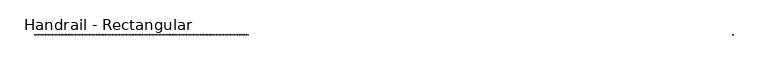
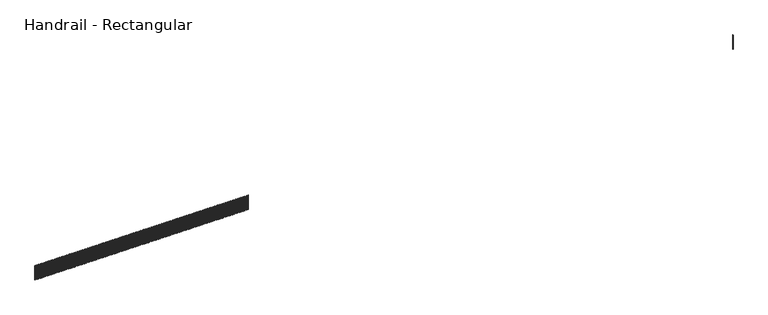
"""IFC4 building model written with IfcOpenShell, lengths in millimetres: railing geometry, Handrail - Rectangular."""

from ifc_helpers import new_model, si_unit, frame, origin, place, context, project, spatial, polyline, outline, extrude, source, transform, mapped, element, save


def handrail_rectangular_199c1d4d(model_context):
    return source(origin(), model_context, "Body", "SweptSolid", [
        extrude(outline(polyline([(1520.7691649, 4066.7725872), (1520.7691649, 4085.8225872), (1539.8191649, 4085.8225872), (1539.8191649, 4066.7725872), (1520.7691649, 4066.7725872)])), frame((0.0, 0.0, 3657.6), z_axis=(0.0, 0.0, 1.0), x_axis=(1.0, 0.0, 0.0)), (0.0, 0.0, 1.0), 863.6),
        extrude(outline(polyline([(1419.1691649, 4066.7725872), (1419.1691649, 4085.8225872), (1438.2191649, 4085.8225872), (1438.2191649, 4066.7725872), (1419.1691649, 4066.7725872)])), frame((0.0, 0.0, 3657.6), z_axis=(0.0, 0.0, 1.0), x_axis=(1.0, 0.0, 0.0)), (0.0, 0.0, 1.0), 863.6),
        extrude(outline(polyline([(1317.5691649, 4066.7725872), (1317.5691649, 4085.8225872), (1336.6191649, 4085.8225872), (1336.6191649, 4066.7725872), (1317.5691649, 4066.7725872)])), frame((0.0, 0.0, 3657.6), z_axis=(0.0, 0.0, 1.0), x_axis=(1.0, 0.0, 0.0)), (0.0, 0.0, 1.0), 863.6),
        extrude(outline(polyline([(1215.9691649, 4066.7725872), (1215.9691649, 4085.8225872), (1235.0191649, 4085.8225872), (1235.0191649, 4066.7725872), (1215.9691649, 4066.7725872)])), frame((0.0, 0.0, 3657.6), z_axis=(0.0, 0.0, 1.0), x_axis=(1.0, 0.0, 0.0)), (0.0, 0.0, 1.0), 863.6),
        extrude(outline(polyline([(1114.3691649, 4066.7725872), (1114.3691649, 4085.8225872), (1133.4191649, 4085.8225872), (1133.4191649, 4066.7725872), (1114.3691649, 4066.7725872)])), frame((0.0, 0.0, 3657.6), z_axis=(0.0, 0.0, 1.0), x_axis=(1.0, 0.0, 0.0)), (0.0, 0.0, 1.0), 863.6),
        extrude(outline(polyline([(1012.7691649, 4066.7725872), (1012.7691649, 4085.8225872), (1031.8191649, 4085.8225872), (1031.8191649, 4066.7725872), (1012.7691649, 4066.7725872)])), frame((0.0, 0.0, 3657.6), z_axis=(0.0, 0.0, 1.0), x_axis=(1.0, 0.0, 0.0)), (0.0, 0.0, 1.0), 863.6),
        extrude(outline(polyline([(911.1691649, 4066.7725872), (911.1691649, 4085.8225872), (930.2191649, 4085.8225872), (930.2191649, 4066.7725872), (911.1691649, 4066.7725872)])), frame((0.0, 0.0, 3657.6), z_axis=(0.0, 0.0, 1.0), x_axis=(1.0, 0.0, 0.0)), (0.0, 0.0, 1.0), 863.6),
        extrude(outline(polyline([(809.5691649, 4066.7725872), (809.5691649, 4085.8225872), (828.6191649, 4085.8225872), (828.6191649, 4066.7725872), (809.5691649, 4066.7725872)])), frame((0.0, 0.0, 3657.6), z_axis=(0.0, 0.0, 1.0), x_axis=(1.0, 0.0, 0.0)), (0.0, 0.0, 1.0), 863.6),
        extrude(outline(polyline([(707.9691649, 4066.7725872), (707.9691649, 4085.8225872), (727.0191649, 4085.8225872), (727.0191649, 4066.7725872), (707.9691649, 4066.7725872)])), frame((0.0, 0.0, 3657.6), z_axis=(0.0, 0.0, 1.0), x_axis=(1.0, 0.0, 0.0)), (0.0, 0.0, 1.0), 863.6),
        extrude(outline(polyline([(606.3691649, 4066.7725872), (606.3691649, 4085.8225872), (625.4191649, 4085.8225872), (625.4191649, 4066.7725872), (606.3691649, 4066.7725872)])), frame((0.0, 0.0, 3657.6), z_axis=(0.0, 0.0, 1.0), x_axis=(1.0, 0.0, 0.0)), (0.0, 0.0, 1.0), 863.6),
        extrude(outline(polyline([(504.7691649, 4066.7725872), (504.7691649, 4085.8225872), (523.8191649, 4085.8225872), (523.8191649, 4066.7725872), (504.7691649, 4066.7725872)])), frame((0.0, 0.0, 3657.6), z_axis=(0.0, 0.0, 1.0), x_axis=(1.0, 0.0, 0.0)), (0.0, 0.0, 1.0), 863.6),
        extrude(outline(polyline([(403.1691649, 4066.7725872), (403.1691649, 4085.8225872), (422.2191649, 4085.8225872), (422.2191649, 4066.7725872), (403.1691649, 4066.7725872)])), frame((0.0, 0.0, 3657.6), z_axis=(0.0, 0.0, 1.0), x_axis=(1.0, 0.0, 0.0)), (0.0, 0.0, 1.0), 863.6),
        extrude(outline(polyline([(301.5691649, 4066.7725872), (301.5691649, 4085.8225872), (320.6191649, 4085.8225872), (320.6191649, 4066.7725872), (301.5691649, 4066.7725872)])), frame((0.0, 0.0, 3657.6), z_axis=(0.0, 0.0, 1.0), x_axis=(1.0, 0.0, 0.0)), (0.0, 0.0, 1.0), 863.6),
        extrude(outline(polyline([(199.9691649, 4066.7725872), (199.9691649, 4085.8225872), (219.0191649, 4085.8225872), (219.0191649, 4066.7725872), (199.9691649, 4066.7725872)])), frame((0.0, 0.0, 3657.6), z_axis=(0.0, 0.0, 1.0), x_axis=(1.0, 0.0, 0.0)), (0.0, 0.0, 1.0), 863.6),
        extrude(outline(polyline([(98.3691649, 4066.7725872), (98.3691649, 4085.8225872), (117.4191649, 4085.8225872), (117.4191649, 4066.7725872), (98.3691649, 4066.7725872)])), frame((0.0, 0.0, 3657.6), z_axis=(0.0, 0.0, 1.0), x_axis=(1.0, 0.0, 0.0)), (0.0, 0.0, 1.0), 863.6),
        extrude(outline(polyline([(-3.2308351, 4066.7725872), (-3.2308351, 4085.8225872), (15.8191649, 4085.8225872), (15.8191649, 4066.7725872), (-3.2308351, 4066.7725872)])), frame((0.0, 0.0, 3657.6), z_axis=(0.0, 0.0, 1.0), x_axis=(1.0, 0.0, 0.0)), (0.0, 0.0, 1.0), 863.6),
        extrude(outline(polyline([(-104.8308351, 4066.7725872), (-104.8308351, 4085.8225872), (-85.7808351, 4085.8225872), (-85.7808351, 4066.7725872), (-104.8308351, 4066.7725872)])), frame((0.0, 0.0, 3657.6), z_axis=(0.0, 0.0, 1.0), x_axis=(1.0, 0.0, 0.0)), (0.0, 0.0, 1.0), 863.6),
        extrude(outline(polyline([(-206.4308351, 4066.7725872), (-206.4308351, 4085.8225872), (-187.3808351, 4085.8225872), (-187.3808351, 4066.7725872), (-206.4308351, 4066.7725872)])), frame((0.0, 0.0, 3657.6), z_axis=(0.0, 0.0, 1.0), x_axis=(1.0, 0.0, 0.0)), (0.0, 0.0, 1.0), 863.6),
        extrude(outline(polyline([(-308.0308351, 4066.7725872), (-308.0308351, 4085.8225872), (-288.9808351, 4085.8225872), (-288.9808351, 4066.7725872), (-308.0308351, 4066.7725872)])), frame((0.0, 0.0, 3657.6), z_axis=(0.0, 0.0, 1.0), x_axis=(1.0, 0.0, 0.0)), (0.0, 0.0, 1.0), 863.6),
        extrude(outline(polyline([(-409.6308351, 4066.7725872), (-409.6308351, 4085.8225872), (-390.5808351, 4085.8225872), (-390.5808351, 4066.7725872), (-409.6308351, 4066.7725872)])), frame((0.0, 0.0, 3657.6), z_axis=(0.0, 0.0, 1.0), x_axis=(1.0, 0.0, 0.0)), (0.0, 0.0, 1.0), 863.6),
        extrude(outline(polyline([(-511.2308351, 4066.7725872), (-511.2308351, 4085.8225872), (-492.1808351, 4085.8225872), (-492.1808351, 4066.7725872), (-511.2308351, 4066.7725872)])), frame((0.0, 0.0, 3657.6), z_axis=(0.0, 0.0, 1.0), x_axis=(1.0, 0.0, 0.0)), (0.0, 0.0, 1.0), 863.6),
        extrude(outline(polyline([(-612.8308351, 4066.7725872), (-612.8308351, 4085.8225872), (-593.7808351, 4085.8225872), (-593.7808351, 4066.7725872), (-612.8308351, 4066.7725872)])), frame((0.0, 0.0, 3657.6), z_axis=(0.0, 0.0, 1.0), x_axis=(1.0, 0.0, 0.0)), (0.0, 0.0, 1.0), 863.6),
        extrude(outline(polyline([(-714.4308351, 4066.7725872), (-714.4308351, 4085.8225872), (-695.3808351, 4085.8225872), (-695.3808351, 4066.7725872), (-714.4308351, 4066.7725872)])), frame((0.0, 0.0, 3657.6), z_axis=(0.0, 0.0, 1.0), x_axis=(1.0, 0.0, 0.0)), (0.0, 0.0, 1.0), 863.6),
        extrude(outline(polyline([(-816.0308351, 4066.7725872), (-816.0308351, 4085.8225872), (-796.9808351, 4085.8225872), (-796.9808351, 4066.7725872), (-816.0308351, 4066.7725872)])), frame((0.0, 0.0, 3657.6), z_axis=(0.0, 0.0, 1.0), x_axis=(1.0, 0.0, 0.0)), (0.0, 0.0, 1.0), 863.6),
        extrude(outline(polyline([(-917.6308351, 4066.7725872), (-917.6308351, 4085.8225872), (-898.5808351, 4085.8225872), (-898.5808351, 4066.7725872), (-917.6308351, 4066.7725872)])), frame((0.0, 0.0, 3657.6), z_axis=(0.0, 0.0, 1.0), x_axis=(1.0, 0.0, 0.0)), (0.0, 0.0, 1.0), 863.6),
        extrude(outline(polyline([(-1019.2308351, 4066.7725872), (-1019.2308351, 4085.8225872), (-1000.1808351, 4085.8225872), (-1000.1808351, 4066.7725872), (-1019.2308351, 4066.7725872)])), frame((0.0, 0.0, 3657.6), z_axis=(0.0, 0.0, 1.0), x_axis=(1.0, 0.0, 0.0)), (0.0, 0.0, 1.0), 863.6),
        extrude(outline(polyline([(-1120.8308351, 4066.7725872), (-1120.8308351, 4085.8225872), (-1101.7808351, 4085.8225872), (-1101.7808351, 4066.7725872), (-1120.8308351, 4066.7725872)])), frame((0.0, 0.0, 3657.6), z_axis=(0.0, 0.0, 1.0), x_axis=(1.0, 0.0, 0.0)), (0.0, 0.0, 1.0), 863.6),
        extrude(outline(polyline([(-1222.4308351, 4066.7725872), (-1222.4308351, 4085.8225872), (-1203.3808351, 4085.8225872), (-1203.3808351, 4066.7725872), (-1222.4308351, 4066.7725872)])), frame((0.0, 0.0, 3657.6), z_axis=(0.0, 0.0, 1.0), x_axis=(1.0, 0.0, 0.0)), (0.0, 0.0, 1.0), 863.6),
        extrude(outline(polyline([(-1324.0308351, 4066.7725872), (-1324.0308351, 4085.8225872), (-1304.9808351, 4085.8225872), (-1304.9808351, 4066.7725872), (-1324.0308351, 4066.7725872)])), frame((0.0, 0.0, 3657.6), z_axis=(0.0, 0.0, 1.0), x_axis=(1.0, 0.0, 0.0)), (0.0, 0.0, 1.0), 863.6),
        extrude(outline(polyline([(-1425.6308351, 4066.7725872), (-1425.6308351, 4085.8225872), (-1406.5808351, 4085.8225872), (-1406.5808351, 4066.7725872), (-1425.6308351, 4066.7725872)])), frame((0.0, 0.0, 3657.6), z_axis=(0.0, 0.0, 1.0), x_axis=(1.0, 0.0, 0.0)), (0.0, 0.0, 1.0), 863.6),
        extrude(outline(polyline([(-1527.2308351, 4066.7725872), (-1527.2308351, 4085.8225872), (-1508.1808351, 4085.8225872), (-1508.1808351, 4066.7725872), (-1527.2308351, 4066.7725872)])), frame((0.0, 0.0, 3657.6), z_axis=(0.0, 0.0, 1.0), x_axis=(1.0, 0.0, 0.0)), (0.0, 0.0, 1.0), 863.6),
        extrude(outline(polyline([(-1628.8308351, 4066.7725872), (-1628.8308351, 4085.8225872), (-1609.7808351, 4085.8225872), (-1609.7808351, 4066.7725872), (-1628.8308351, 4066.7725872)])), frame((0.0, 0.0, 3657.6), z_axis=(0.0, 0.0, 1.0), x_axis=(1.0, 0.0, 0.0)), (0.0, 0.0, 1.0), 863.6),
        extrude(outline(polyline([(-1730.4308351, 4066.7725872), (-1730.4308351, 4085.8225872), (-1711.3808351, 4085.8225872), (-1711.3808351, 4066.7725872), (-1730.4308351, 4066.7725872)])), frame((0.0, 0.0, 3657.6), z_axis=(0.0, 0.0, 1.0), x_axis=(1.0, 0.0, 0.0)), (0.0, 0.0, 1.0), 863.6),
        extrude(outline(polyline([(-1832.0308351, 4066.7725872), (-1832.0308351, 4085.8225872), (-1812.9808351, 4085.8225872), (-1812.9808351, 4066.7725872), (-1832.0308351, 4066.7725872)])), frame((0.0, 0.0, 3657.6), z_axis=(0.0, 0.0, 1.0), x_axis=(1.0, 0.0, 0.0)), (0.0, 0.0, 1.0), 863.6),
        extrude(outline(polyline([(-1933.6308351, 4066.7725872), (-1933.6308351, 4085.8225872), (-1914.5808351, 4085.8225872), (-1914.5808351, 4066.7725872), (-1933.6308351, 4066.7725872)])), frame((0.0, 0.0, 3657.6), z_axis=(0.0, 0.0, 1.0), x_axis=(1.0, 0.0, 0.0)), (0.0, 0.0, 1.0), 863.6),
        extrude(outline(polyline([(-2035.2308351, 4066.7725872), (-2035.2308351, 4085.8225872), (-2016.1808351, 4085.8225872), (-2016.1808351, 4066.7725872), (-2035.2308351, 4066.7725872)])), frame((0.0, 0.0, 3657.6), z_axis=(0.0, 0.0, 1.0), x_axis=(1.0, 0.0, 0.0)), (0.0, 0.0, 1.0), 863.6),
        extrude(outline(polyline([(-2136.8308351, 4066.7725872), (-2136.8308351, 4085.8225872), (-2117.7808351, 4085.8225872), (-2117.7808351, 4066.7725872), (-2136.8308351, 4066.7725872)])), frame((0.0, 0.0, 3657.6), z_axis=(0.0, 0.0, 1.0), x_axis=(1.0, 0.0, 0.0)), (0.0, 0.0, 1.0), 863.6),
        extrude(outline(polyline([(-2238.4308351, 4066.7725872), (-2238.4308351, 4085.8225872), (-2219.3808351, 4085.8225872), (-2219.3808351, 4066.7725872), (-2238.4308351, 4066.7725872)])), frame((0.0, 0.0, 3657.6), z_axis=(0.0, 0.0, 1.0), x_axis=(1.0, 0.0, 0.0)), (0.0, 0.0, 1.0), 863.6),
        extrude(outline(polyline([(-2340.0308351, 4066.7725872), (-2340.0308351, 4085.8225872), (-2320.9808351, 4085.8225872), (-2320.9808351, 4066.7725872), (-2340.0308351, 4066.7725872)])), frame((0.0, 0.0, 3657.6), z_axis=(0.0, 0.0, 1.0), x_axis=(1.0, 0.0, 0.0)), (0.0, 0.0, 1.0), 863.6),
        extrude(outline(polyline([(-2441.6308351, 4066.7725872), (-2441.6308351, 4085.8225872), (-2422.5808351, 4085.8225872), (-2422.5808351, 4066.7725872), (-2441.6308351, 4066.7725872)])), frame((0.0, 0.0, 3657.6), z_axis=(0.0, 0.0, 1.0), x_axis=(1.0, 0.0, 0.0)), (0.0, 0.0, 1.0), 863.6),
        extrude(outline(polyline([(-2543.2308351, 4066.7725872), (-2543.2308351, 4085.8225872), (-2524.1808351, 4085.8225872), (-2524.1808351, 4066.7725872), (-2543.2308351, 4066.7725872)])), frame((0.0, 0.0, 3657.6), z_axis=(0.0, 0.0, 1.0), x_axis=(1.0, 0.0, 0.0)), (0.0, 0.0, 1.0), 863.6),
        extrude(outline(polyline([(-2644.8308351, 4066.7725872), (-2644.8308351, 4085.8225872), (-2625.7808351, 4085.8225872), (-2625.7808351, 4066.7725872), (-2644.8308351, 4066.7725872)])), frame((0.0, 0.0, 3657.6), z_axis=(0.0, 0.0, 1.0), x_axis=(1.0, 0.0, 0.0)), (0.0, 0.0, 1.0), 863.6),
        extrude(outline(polyline([(-2746.4308351, 4066.7725872), (-2746.4308351, 4085.8225872), (-2727.3808351, 4085.8225872), (-2727.3808351, 4066.7725872), (-2746.4308351, 4066.7725872)])), frame((0.0, 0.0, 3657.6), z_axis=(0.0, 0.0, 1.0), x_axis=(1.0, 0.0, 0.0)), (0.0, 0.0, 1.0), 863.6),
        extrude(outline(polyline([(-2848.0308351, 4066.7725872), (-2848.0308351, 4085.8225872), (-2828.9808351, 4085.8225872), (-2828.9808351, 4066.7725872), (-2848.0308351, 4066.7725872)])), frame((0.0, 0.0, 3657.6), z_axis=(0.0, 0.0, 1.0), x_axis=(1.0, 0.0, 0.0)), (0.0, 0.0, 1.0), 863.6),
        extrude(outline(polyline([(-2949.6308351, 4066.7725872), (-2949.6308351, 4085.8225872), (-2930.5808351, 4085.8225872), (-2930.5808351, 4066.7725872), (-2949.6308351, 4066.7725872)])), frame((0.0, 0.0, 3657.6), z_axis=(0.0, 0.0, 1.0), x_axis=(1.0, 0.0, 0.0)), (0.0, 0.0, 1.0), 863.6),
        extrude(outline(polyline([(-3051.2308351, 4066.7725872), (-3051.2308351, 4085.8225872), (-3032.1808351, 4085.8225872), (-3032.1808351, 4066.7725872), (-3051.2308351, 4066.7725872)])), frame((0.0, 0.0, 3657.6), z_axis=(0.0, 0.0, 1.0), x_axis=(1.0, 0.0, 0.0)), (0.0, 0.0, 1.0), 863.6),
        extrude(outline(polyline([(-3152.8308351, 4066.7725872), (-3152.8308351, 4085.8225872), (-3133.7808351, 4085.8225872), (-3133.7808351, 4066.7725872), (-3152.8308351, 4066.7725872)])), frame((0.0, 0.0, 3657.6), z_axis=(0.0, 0.0, 1.0), x_axis=(1.0, 0.0, 0.0)), (0.0, 0.0, 1.0), 863.6),
        extrude(outline(polyline([(-3254.4308351, 4066.7725872), (-3254.4308351, 4085.8225872), (-3235.3808351, 4085.8225872), (-3235.3808351, 4066.7725872), (-3254.4308351, 4066.7725872)])), frame((0.0, 0.0, 3657.6), z_axis=(0.0, 0.0, 1.0), x_axis=(1.0, 0.0, 0.0)), (0.0, 0.0, 1.0), 863.6),
        extrude(outline(polyline([(-3356.0308351, 4066.7725872), (-3356.0308351, 4085.8225872), (-3336.9808351, 4085.8225872), (-3336.9808351, 4066.7725872), (-3356.0308351, 4066.7725872)])), frame((0.0, 0.0, 3657.6), z_axis=(0.0, 0.0, 1.0), x_axis=(1.0, 0.0, 0.0)), (0.0, 0.0, 1.0), 863.6),
        extrude(outline(polyline([(-3457.6308351, 4066.7725872), (-3457.6308351, 4085.8225872), (-3438.5808351, 4085.8225872), (-3438.5808351, 4066.7725872), (-3457.6308351, 4066.7725872)])), frame((0.0, 0.0, 3657.6), z_axis=(0.0, 0.0, 1.0), x_axis=(1.0, 0.0, 0.0)), (0.0, 0.0, 1.0), 863.6),
        extrude(outline(polyline([(-3559.2308351, 4066.7725872), (-3559.2308351, 4085.8225872), (-3540.1808351, 4085.8225872), (-3540.1808351, 4066.7725872), (-3559.2308351, 4066.7725872)])), frame((0.0, 0.0, 3657.6), z_axis=(0.0, 0.0, 1.0), x_axis=(1.0, 0.0, 0.0)), (0.0, 0.0, 1.0), 863.6),
        extrude(outline(polyline([(-3660.8308351, 4066.7725872), (-3660.8308351, 4085.8225872), (-3641.7808351, 4085.8225872), (-3641.7808351, 4066.7725872), (-3660.8308351, 4066.7725872)])), frame((0.0, 0.0, 3657.6), z_axis=(0.0, 0.0, 1.0), x_axis=(1.0, 0.0, 0.0)), (0.0, 0.0, 1.0), 863.6),
        extrude(outline(polyline([(-3762.4308351, 4066.7725872), (-3762.4308351, 4085.8225872), (-3743.3808351, 4085.8225872), (-3743.3808351, 4066.7725872), (-3762.4308351, 4066.7725872)])), frame((0.0, 0.0, 3657.6), z_axis=(0.0, 0.0, 1.0), x_axis=(1.0, 0.0, 0.0)), (0.0, 0.0, 1.0), 863.6),
        extrude(outline(polyline([(-3864.0308351, 4066.7725872), (-3864.0308351, 4085.8225872), (-3844.9808351, 4085.8225872), (-3844.9808351, 4066.7725872), (-3864.0308351, 4066.7725872)])), frame((0.0, 0.0, 3657.6), z_axis=(0.0, 0.0, 1.0), x_axis=(1.0, 0.0, 0.0)), (0.0, 0.0, 1.0), 863.6),
        extrude(outline(polyline([(-3965.6308351, 4066.7725872), (-3965.6308351, 4085.8225872), (-3946.5808351, 4085.8225872), (-3946.5808351, 4066.7725872), (-3965.6308351, 4066.7725872)])), frame((0.0, 0.0, 3657.6), z_axis=(0.0, 0.0, 1.0), x_axis=(1.0, 0.0, 0.0)), (0.0, 0.0, 1.0), 863.6),
        extrude(outline(polyline([(-4067.2308351, 4066.7725872), (-4067.2308351, 4085.8225872), (-4048.1808351, 4085.8225872), (-4048.1808351, 4066.7725872), (-4067.2308351, 4066.7725872)])), frame((0.0, 0.0, 3657.6), z_axis=(0.0, 0.0, 1.0), x_axis=(1.0, 0.0, 0.0)), (0.0, 0.0, 1.0), 863.6),
        extrude(outline(polyline([(-4168.8308351, 4066.7725872), (-4168.8308351, 4085.8225872), (-4149.7808351, 4085.8225872), (-4149.7808351, 4066.7725872), (-4168.8308351, 4066.7725872)])), frame((0.0, 0.0, 3657.6), z_axis=(0.0, 0.0, 1.0), x_axis=(1.0, 0.0, 0.0)), (0.0, 0.0, 1.0), 863.6),
        extrude(outline(polyline([(-4270.4308351, 4066.7725872), (-4270.4308351, 4085.8225872), (-4251.3808351, 4085.8225872), (-4251.3808351, 4066.7725872), (-4270.4308351, 4066.7725872)])), frame((0.0, 0.0, 3657.6), z_axis=(0.0, 0.0, 1.0), x_axis=(1.0, 0.0, 0.0)), (0.0, 0.0, 1.0), 863.6),
        extrude(outline(polyline([(-4372.0308351, 4066.7725872), (-4372.0308351, 4085.8225872), (-4352.9808351, 4085.8225872), (-4352.9808351, 4066.7725872), (-4372.0308351, 4066.7725872)])), frame((0.0, 0.0, 3657.6), z_axis=(0.0, 0.0, 1.0), x_axis=(1.0, 0.0, 0.0)), (0.0, 0.0, 1.0), 863.6),
        extrude(outline(polyline([(-4473.6308351, 4066.7725872), (-4473.6308351, 4085.8225872), (-4454.5808351, 4085.8225872), (-4454.5808351, 4066.7725872), (-4473.6308351, 4066.7725872)])), frame((0.0, 0.0, 3657.6), z_axis=(0.0, 0.0, 1.0), x_axis=(1.0, 0.0, 0.0)), (0.0, 0.0, 1.0), 863.6),
        extrude(outline(polyline([(-4575.2308351, 4066.7725872), (-4575.2308351, 4085.8225872), (-4556.1808351, 4085.8225872), (-4556.1808351, 4066.7725872), (-4575.2308351, 4066.7725872)])), frame((0.0, 0.0, 3657.6), z_axis=(0.0, 0.0, 1.0), x_axis=(1.0, 0.0, 0.0)), (0.0, 0.0, 1.0), 863.6),
        extrude(outline(polyline([(-4676.8308351, 4066.7725872), (-4676.8308351, 4085.8225872), (-4657.7808351, 4085.8225872), (-4657.7808351, 4066.7725872), (-4676.8308351, 4066.7725872)])), frame((0.0, 0.0, 3657.6), z_axis=(0.0, 0.0, 1.0), x_axis=(1.0, 0.0, 0.0)), (0.0, 0.0, 1.0), 863.6),
        extrude(outline(polyline([(-4778.4308351, 4066.7725872), (-4778.4308351, 4085.8225872), (-4759.3808351, 4085.8225872), (-4759.3808351, 4066.7725872), (-4778.4308351, 4066.7725872)])), frame((0.0, 0.0, 3657.6), z_axis=(0.0, 0.0, 1.0), x_axis=(1.0, 0.0, 0.0)), (0.0, 0.0, 1.0), 863.6),
        extrude(outline(polyline([(-4880.0308351, 4066.7725872), (-4880.0308351, 4085.8225872), (-4860.9808351, 4085.8225872), (-4860.9808351, 4066.7725872), (-4880.0308351, 4066.7725872)])), frame((0.0, 0.0, 3657.6), z_axis=(0.0, 0.0, 1.0), x_axis=(1.0, 0.0, 0.0)), (0.0, 0.0, 1.0), 863.6),
        extrude(outline(polyline([(-4981.6308351, 4066.7725872), (-4981.6308351, 4085.8225872), (-4962.5808351, 4085.8225872), (-4962.5808351, 4066.7725872), (-4981.6308351, 4066.7725872)])), frame((0.0, 0.0, 3657.6), z_axis=(0.0, 0.0, 1.0), x_axis=(1.0, 0.0, 0.0)), (0.0, 0.0, 1.0), 863.6),
        extrude(outline(polyline([(-5083.2308351, 4066.7725872), (-5083.2308351, 4085.8225872), (-5064.1808351, 4085.8225872), (-5064.1808351, 4066.7725872), (-5083.2308351, 4066.7725872)])), frame((0.0, 0.0, 3657.6), z_axis=(0.0, 0.0, 1.0), x_axis=(1.0, 0.0, 0.0)), (0.0, 0.0, 1.0), 863.6),
        extrude(outline(polyline([(-5184.8308351, 4066.7725872), (-5184.8308351, 4085.8225872), (-5165.7808351, 4085.8225872), (-5165.7808351, 4066.7725872), (-5184.8308351, 4066.7725872)])), frame((0.0, 0.0, 3657.6), z_axis=(0.0, 0.0, 1.0), x_axis=(1.0, 0.0, 0.0)), (0.0, 0.0, 1.0), 863.6),
        extrude(outline(polyline([(-5286.4308351, 4066.7725872), (-5286.4308351, 4085.8225872), (-5267.3808351, 4085.8225872), (-5267.3808351, 4066.7725872), (-5286.4308351, 4066.7725872)])), frame((0.0, 0.0, 3657.6), z_axis=(0.0, 0.0, 1.0), x_axis=(1.0, 0.0, 0.0)), (0.0, 0.0, 1.0), 863.6),
        extrude(outline(polyline([(-5388.0308351, 4066.7725872), (-5388.0308351, 4085.8225872), (-5368.9808351, 4085.8225872), (-5368.9808351, 4066.7725872), (-5388.0308351, 4066.7725872)])), frame((0.0, 0.0, 3657.6), z_axis=(0.0, 0.0, 1.0), x_axis=(1.0, 0.0, 0.0)), (0.0, 0.0, 1.0), 863.6),
        extrude(outline(polyline([(-5489.6308351, 4066.7725872), (-5489.6308351, 4085.8225872), (-5470.5808351, 4085.8225872), (-5470.5808351, 4066.7725872), (-5489.6308351, 4066.7725872)])), frame((0.0, 0.0, 3657.6), z_axis=(0.0, 0.0, 1.0), x_axis=(1.0, 0.0, 0.0)), (0.0, 0.0, 1.0), 863.6),
        extrude(outline(polyline([(-5591.2308351, 4066.7725872), (-5591.2308351, 4085.8225872), (-5572.1808351, 4085.8225872), (-5572.1808351, 4066.7725872), (-5591.2308351, 4066.7725872)])), frame((0.0, 0.0, 3657.6), z_axis=(0.0, 0.0, 1.0), x_axis=(1.0, 0.0, 0.0)), (0.0, 0.0, 1.0), 863.6),
        extrude(outline(polyline([(-5692.8308351, 4066.7725872), (-5692.8308351, 4085.8225872), (-5673.7808351, 4085.8225872), (-5673.7808351, 4066.7725872), (-5692.8308351, 4066.7725872)])), frame((0.0, 0.0, 3657.6), z_axis=(0.0, 0.0, 1.0), x_axis=(1.0, 0.0, 0.0)), (0.0, 0.0, 1.0), 863.6),
        extrude(outline(polyline([(-5794.4308351, 4066.7725872), (-5794.4308351, 4085.8225872), (-5775.3808351, 4085.8225872), (-5775.3808351, 4066.7725872), (-5794.4308351, 4066.7725872)])), frame((0.0, 0.0, 3657.6), z_axis=(0.0, 0.0, 1.0), x_axis=(1.0, 0.0, 0.0)), (0.0, 0.0, 1.0), 863.6),
        extrude(outline(polyline([(-5896.0308351, 4066.7725872), (-5896.0308351, 4085.8225872), (-5876.9808351, 4085.8225872), (-5876.9808351, 4066.7725872), (-5896.0308351, 4066.7725872)])), frame((0.0, 0.0, 3657.6), z_axis=(0.0, 0.0, 1.0), x_axis=(1.0, 0.0, 0.0)), (0.0, 0.0, 1.0), 863.6),
        extrude(outline(polyline([(-5997.6308351, 4066.7725872), (-5997.6308351, 4085.8225872), (-5978.5808351, 4085.8225872), (-5978.5808351, 4066.7725872), (-5997.6308351, 4066.7725872)])), frame((0.0, 0.0, 3657.6), z_axis=(0.0, 0.0, 1.0), x_axis=(1.0, 0.0, 0.0)), (0.0, 0.0, 1.0), 863.6),
        extrude(outline(polyline([(-6099.2308351, 4066.7725872), (-6099.2308351, 4085.8225872), (-6080.1808351, 4085.8225872), (-6080.1808351, 4066.7725872), (-6099.2308351, 4066.7725872)])), frame((0.0, 0.0, 3657.6), z_axis=(0.0, 0.0, 1.0), x_axis=(1.0, 0.0, 0.0)), (0.0, 0.0, 1.0), 863.6),
        extrude(outline(polyline([(-6200.8308351, 4066.7725872), (-6200.8308351, 4085.8225872), (-6181.7808351, 4085.8225872), (-6181.7808351, 4066.7725872), (-6200.8308351, 4066.7725872)])), frame((0.0, 0.0, 3657.6), z_axis=(0.0, 0.0, 1.0), x_axis=(1.0, 0.0, 0.0)), (0.0, 0.0, 1.0), 863.6),
        extrude(outline(polyline([(-6302.4308351, 4066.7725872), (-6302.4308351, 4085.8225872), (-6283.3808351, 4085.8225872), (-6283.3808351, 4066.7725872), (-6302.4308351, 4066.7725872)])), frame((0.0, 0.0, 3657.6), z_axis=(0.0, 0.0, 1.0), x_axis=(1.0, 0.0, 0.0)), (0.0, 0.0, 1.0), 863.6),
        extrude(outline(polyline([(-6404.0308351, 4066.7725872), (-6404.0308351, 4085.8225872), (-6384.9808351, 4085.8225872), (-6384.9808351, 4066.7725872), (-6404.0308351, 4066.7725872)])), frame((0.0, 0.0, 3657.6), z_axis=(0.0, 0.0, 1.0), x_axis=(1.0, 0.0, 0.0)), (0.0, 0.0, 1.0), 863.6),
        extrude(outline(polyline([(-6505.6308351, 4066.7725872), (-6505.6308351, 4085.8225872), (-6486.5808351, 4085.8225872), (-6486.5808351, 4066.7725872), (-6505.6308351, 4066.7725872)])), frame((0.0, 0.0, 3657.6), z_axis=(0.0, 0.0, 1.0), x_axis=(1.0, 0.0, 0.0)), (0.0, 0.0, 1.0), 863.6),
        extrude(outline(polyline([(-6607.2308351, 4066.7725872), (-6607.2308351, 4085.8225872), (-6588.1808351, 4085.8225872), (-6588.1808351, 4066.7725872), (-6607.2308351, 4066.7725872)])), frame((0.0, 0.0, 3657.6), z_axis=(0.0, 0.0, 1.0), x_axis=(1.0, 0.0, 0.0)), (0.0, 0.0, 1.0), 863.6),
        extrude(outline(polyline([(-6708.8308351, 4066.7725872), (-6708.8308351, 4085.8225872), (-6689.7808351, 4085.8225872), (-6689.7808351, 4066.7725872), (-6708.8308351, 4066.7725872)])), frame((0.0, 0.0, 3657.6), z_axis=(0.0, 0.0, 1.0), x_axis=(1.0, 0.0, 0.0)), (0.0, 0.0, 1.0), 863.6),
        extrude(outline(polyline([(-6810.4308351, 4066.7725872), (-6810.4308351, 4085.8225872), (-6791.3808351, 4085.8225872), (-6791.3808351, 4066.7725872), (-6810.4308351, 4066.7725872)])), frame((0.0, 0.0, 3657.6), z_axis=(0.0, 0.0, 1.0), x_axis=(1.0, 0.0, 0.0)), (0.0, 0.0, 1.0), 863.6),
        extrude(outline(polyline([(-6912.0308351, 4066.7725872), (-6912.0308351, 4085.8225872), (-6892.9808351, 4085.8225872), (-6892.9808351, 4066.7725872), (-6912.0308351, 4066.7725872)])), frame((0.0, 0.0, 3657.6), z_axis=(0.0, 0.0, 1.0), x_axis=(1.0, 0.0, 0.0)), (0.0, 0.0, 1.0), 863.6),
        extrude(outline(polyline([(-7013.6308351, 4066.7725872), (-7013.6308351, 4085.8225872), (-6994.5808351, 4085.8225872), (-6994.5808351, 4066.7725872), (-7013.6308351, 4066.7725872)])), frame((0.0, 0.0, 3657.6), z_axis=(0.0, 0.0, 1.0), x_axis=(1.0, 0.0, 0.0)), (0.0, 0.0, 1.0), 863.6),
        extrude(outline(polyline([(-7115.2308351, 4066.7725872), (-7115.2308351, 4085.8225872), (-7096.1808351, 4085.8225872), (-7096.1808351, 4066.7725872), (-7115.2308351, 4066.7725872)])), frame((0.0, 0.0, 3657.6), z_axis=(0.0, 0.0, 1.0), x_axis=(1.0, 0.0, 0.0)), (0.0, 0.0, 1.0), 863.6),
        extrude(outline(polyline([(-7216.8308351, 4066.7725872), (-7216.8308351, 4085.8225872), (-7197.7808351, 4085.8225872), (-7197.7808351, 4066.7725872), (-7216.8308351, 4066.7725872)])), frame((0.0, 0.0, 3657.6), z_axis=(0.0, 0.0, 1.0), x_axis=(1.0, 0.0, 0.0)), (0.0, 0.0, 1.0), 863.6),
        extrude(outline(polyline([(-7318.4308351, 4066.7725872), (-7318.4308351, 4085.8225872), (-7299.3808351, 4085.8225872), (-7299.3808351, 4066.7725872), (-7318.4308351, 4066.7725872)])), frame((0.0, 0.0, 3657.6), z_axis=(0.0, 0.0, 1.0), x_axis=(1.0, 0.0, 0.0)), (0.0, 0.0, 1.0), 863.6),
        extrude(outline(polyline([(-7420.0308351, 4066.7725872), (-7420.0308351, 4085.8225872), (-7400.9808351, 4085.8225872), (-7400.9808351, 4066.7725872), (-7420.0308351, 4066.7725872)])), frame((0.0, 0.0, 3657.6), z_axis=(0.0, 0.0, 1.0), x_axis=(1.0, 0.0, 0.0)), (0.0, 0.0, 1.0), 863.6),
        extrude(outline(polyline([(-7521.6308351, 4066.7725872), (-7521.6308351, 4085.8225872), (-7502.5808351, 4085.8225872), (-7502.5808351, 4066.7725872), (-7521.6308351, 4066.7725872)])), frame((0.0, 0.0, 3657.6), z_axis=(0.0, 0.0, 1.0), x_axis=(1.0, 0.0, 0.0)), (0.0, 0.0, 1.0), 863.6),
        extrude(outline(polyline([(-7623.2308351, 4066.7725872), (-7623.2308351, 4085.8225872), (-7604.1808351, 4085.8225872), (-7604.1808351, 4066.7725872), (-7623.2308351, 4066.7725872)])), frame((0.0, 0.0, 3657.6), z_axis=(0.0, 0.0, 1.0), x_axis=(1.0, 0.0, 0.0)), (0.0, 0.0, 1.0), 863.6),
        extrude(outline(polyline([(-7724.8308351, 4066.7725872), (-7724.8308351, 4085.8225872), (-7705.7808351, 4085.8225872), (-7705.7808351, 4066.7725872), (-7724.8308351, 4066.7725872)])), frame((0.0, 0.0, 3657.6), z_axis=(0.0, 0.0, 1.0), x_axis=(1.0, 0.0, 0.0)), (0.0, 0.0, 1.0), 863.6),
        extrude(outline(polyline([(-7826.4308351, 4066.7725872), (-7826.4308351, 4085.8225872), (-7807.3808351, 4085.8225872), (-7807.3808351, 4066.7725872), (-7826.4308351, 4066.7725872)])), frame((0.0, 0.0, 3657.6), z_axis=(0.0, 0.0, 1.0), x_axis=(1.0, 0.0, 0.0)), (0.0, 0.0, 1.0), 863.6),
        extrude(outline(polyline([(-7928.0308351, 4066.7725872), (-7928.0308351, 4085.8225872), (-7908.9808351, 4085.8225872), (-7908.9808351, 4066.7725872), (-7928.0308351, 4066.7725872)])), frame((0.0, 0.0, 3657.6), z_axis=(0.0, 0.0, 1.0), x_axis=(1.0, 0.0, 0.0)), (0.0, 0.0, 1.0), 863.6),
        extrude(outline(polyline([(-8029.6308351, 4066.7725872), (-8029.6308351, 4085.8225872), (-8010.5808351, 4085.8225872), (-8010.5808351, 4066.7725872), (-8029.6308351, 4066.7725872)])), frame((0.0, 0.0, 3657.6), z_axis=(0.0, 0.0, 1.0), x_axis=(1.0, 0.0, 0.0)), (0.0, 0.0, 1.0), 863.6),
        extrude(outline(polyline([(-8131.2308351, 4066.7725872), (-8131.2308351, 4085.8225872), (-8112.1808351, 4085.8225872), (-8112.1808351, 4066.7725872), (-8131.2308351, 4066.7725872)])), frame((0.0, 0.0, 3657.6), z_axis=(0.0, 0.0, 1.0), x_axis=(1.0, 0.0, 0.0)), (0.0, 0.0, 1.0), 863.6),
        extrude(outline(polyline([(-8232.8308351, 4066.7725872), (-8232.8308351, 4085.8225872), (-8213.7808351, 4085.8225872), (-8213.7808351, 4066.7725872), (-8232.8308351, 4066.7725872)])), frame((0.0, 0.0, 3657.6), z_axis=(0.0, 0.0, 1.0), x_axis=(1.0, 0.0, 0.0)), (0.0, 0.0, 1.0), 863.6),
        extrude(outline(polyline([(-8334.4308351, 4066.7725872), (-8334.4308351, 4085.8225872), (-8315.3808351, 4085.8225872), (-8315.3808351, 4066.7725872), (-8334.4308351, 4066.7725872)])), frame((0.0, 0.0, 3657.6), z_axis=(0.0, 0.0, 1.0), x_axis=(1.0, 0.0, 0.0)), (0.0, 0.0, 1.0), 863.6),
        extrude(outline(polyline([(-8436.0308351, 4066.7725872), (-8436.0308351, 4085.8225872), (-8416.9808351, 4085.8225872), (-8416.9808351, 4066.7725872), (-8436.0308351, 4066.7725872)])), frame((0.0, 0.0, 3657.6), z_axis=(0.0, 0.0, 1.0), x_axis=(1.0, 0.0, 0.0)), (0.0, 0.0, 1.0), 863.6),
        extrude(outline(polyline([(-8537.6308351, 4066.7725872), (-8537.6308351, 4085.8225872), (-8518.5808351, 4085.8225872), (-8518.5808351, 4066.7725872), (-8537.6308351, 4066.7725872)])), frame((0.0, 0.0, 3657.6), z_axis=(0.0, 0.0, 1.0), x_axis=(1.0, 0.0, 0.0)), (0.0, 0.0, 1.0), 863.6),
        extrude(outline(polyline([(-8639.2308351, 4066.7725872), (-8639.2308351, 4085.8225872), (-8620.1808351, 4085.8225872), (-8620.1808351, 4066.7725872), (-8639.2308351, 4066.7725872)])), frame((0.0, 0.0, 3657.6), z_axis=(0.0, 0.0, 1.0), x_axis=(1.0, 0.0, 0.0)), (0.0, 0.0, 1.0), 863.6),
        extrude(outline(polyline([(-8740.8308351, 4066.7725872), (-8740.8308351, 4085.8225872), (-8721.7808351, 4085.8225872), (-8721.7808351, 4066.7725872), (-8740.8308351, 4066.7725872)])), frame((0.0, 0.0, 3657.6), z_axis=(0.0, 0.0, 1.0), x_axis=(1.0, 0.0, 0.0)), (0.0, 0.0, 1.0), 863.6),
        extrude(outline(polyline([(-8842.4308351, 4066.7725872), (-8842.4308351, 4085.8225872), (-8823.3808351, 4085.8225872), (-8823.3808351, 4066.7725872), (-8842.4308351, 4066.7725872)])), frame((0.0, 0.0, 3657.6), z_axis=(0.0, 0.0, 1.0), x_axis=(1.0, 0.0, 0.0)), (0.0, 0.0, 1.0), 863.6),
        extrude(outline(polyline([(-8944.0308351, 4066.7725872), (-8944.0308351, 4085.8225872), (-8924.9808351, 4085.8225872), (-8924.9808351, 4066.7725872), (-8944.0308351, 4066.7725872)])), frame((0.0, 0.0, 3657.6), z_axis=(0.0, 0.0, 1.0), x_axis=(1.0, 0.0, 0.0)), (0.0, 0.0, 1.0), 863.6),
        extrude(outline(polyline([(-9045.6308351, 4066.7725872), (-9045.6308351, 4085.8225872), (-9026.5808351, 4085.8225872), (-9026.5808351, 4066.7725872), (-9045.6308351, 4066.7725872)])), frame((0.0, 0.0, 3657.6), z_axis=(0.0, 0.0, 1.0), x_axis=(1.0, 0.0, 0.0)), (0.0, 0.0, 1.0), 863.6),
        extrude(outline(polyline([(-9147.2308351, 4066.7725872), (-9147.2308351, 4085.8225872), (-9128.1808351, 4085.8225872), (-9128.1808351, 4066.7725872), (-9147.2308351, 4066.7725872)])), frame((0.0, 0.0, 3657.6), z_axis=(0.0, 0.0, 1.0), x_axis=(1.0, 0.0, 0.0)), (0.0, 0.0, 1.0), 863.6),
        extrude(outline(polyline([(-9248.8308351, 4066.7725872), (-9248.8308351, 4085.8225872), (-9229.7808351, 4085.8225872), (-9229.7808351, 4066.7725872), (-9248.8308351, 4066.7725872)])), frame((0.0, 0.0, 3657.6), z_axis=(0.0, 0.0, 1.0), x_axis=(1.0, 0.0, 0.0)), (0.0, 0.0, 1.0), 863.6),
        extrude(outline(polyline([(-9350.4308351, 4066.7725872), (-9350.4308351, 4085.8225872), (-9331.3808351, 4085.8225872), (-9331.3808351, 4066.7725872), (-9350.4308351, 4066.7725872)])), frame((0.0, 0.0, 3657.6), z_axis=(0.0, 0.0, 1.0), x_axis=(1.0, 0.0, 0.0)), (0.0, 0.0, 1.0), 863.6),
        extrude(outline(polyline([(-9452.0308351, 4066.7725872), (-9452.0308351, 4085.8225872), (-9432.9808351, 4085.8225872), (-9432.9808351, 4066.7725872), (-9452.0308351, 4066.7725872)])), frame((0.0, 0.0, 3657.6), z_axis=(0.0, 0.0, 1.0), x_axis=(1.0, 0.0, 0.0)), (0.0, 0.0, 1.0), 863.6),
        extrude(outline(polyline([(-9553.6308351, 4066.7725872), (-9553.6308351, 4085.8225872), (-9534.5808351, 4085.8225872), (-9534.5808351, 4066.7725872), (-9553.6308351, 4066.7725872)])), frame((0.0, 0.0, 3657.6), z_axis=(0.0, 0.0, 1.0), x_axis=(1.0, 0.0, 0.0)), (0.0, 0.0, 1.0), 863.6),
        extrude(outline(polyline([(-9655.2308351, 4066.7725872), (-9655.2308351, 4085.8225872), (-9636.1808351, 4085.8225872), (-9636.1808351, 4066.7725872), (-9655.2308351, 4066.7725872)])), frame((0.0, 0.0, 3657.6), z_axis=(0.0, 0.0, 1.0), x_axis=(1.0, 0.0, 0.0)), (0.0, 0.0, 1.0), 863.6),
        extrude(outline(polyline([(-9756.8308351, 4066.7725872), (-9756.8308351, 4085.8225872), (-9737.7808351, 4085.8225872), (-9737.7808351, 4066.7725872), (-9756.8308351, 4066.7725872)])), frame((0.0, 0.0, 3657.6), z_axis=(0.0, 0.0, 1.0), x_axis=(1.0, 0.0, 0.0)), (0.0, 0.0, 1.0), 863.6),
        extrude(outline(polyline([(-9858.4308351, 4066.7725872), (-9858.4308351, 4085.8225872), (-9839.3808351, 4085.8225872), (-9839.3808351, 4066.7725872), (-9858.4308351, 4066.7725872)])), frame((0.0, 0.0, 3657.6), z_axis=(0.0, 0.0, 1.0), x_axis=(1.0, 0.0, 0.0)), (0.0, 0.0, 1.0), 863.6),
        extrude(outline(polyline([(-9960.0308351, 4066.7725872), (-9960.0308351, 4085.8225872), (-9940.9808351, 4085.8225872), (-9940.9808351, 4066.7725872), (-9960.0308351, 4066.7725872)])), frame((0.0, 0.0, 3657.6), z_axis=(0.0, 0.0, 1.0), x_axis=(1.0, 0.0, 0.0)), (0.0, 0.0, 1.0), 863.6),
        extrude(outline(polyline([(-10061.6308351, 4066.7725872), (-10061.6308351, 4085.8225872), (-10042.5808351, 4085.8225872), (-10042.5808351, 4066.7725872), (-10061.6308351, 4066.7725872)])), frame((0.0, 0.0, 3657.6), z_axis=(0.0, 0.0, 1.0), x_axis=(1.0, 0.0, 0.0)), (0.0, 0.0, 1.0), 863.6),
        extrude(outline(polyline([(-10163.2308351, 4066.7725872), (-10163.2308351, 4085.8225872), (-10144.1808351, 4085.8225872), (-10144.1808351, 4066.7725872), (-10163.2308351, 4066.7725872)])), frame((0.0, 0.0, 3657.6), z_axis=(0.0, 0.0, 1.0), x_axis=(1.0, 0.0, 0.0)), (0.0, 0.0, 1.0), 863.6),
        extrude(outline(polyline([(-10264.8308351, 4066.7725872), (-10264.8308351, 4085.8225872), (-10245.7808351, 4085.8225872), (-10245.7808351, 4066.7725872), (-10264.8308351, 4066.7725872)])), frame((0.0, 0.0, 3657.6), z_axis=(0.0, 0.0, 1.0), x_axis=(1.0, 0.0, 0.0)), (0.0, 0.0, 1.0), 863.6),
        extrude(outline(polyline([(-10366.4308351, 4066.7725872), (-10366.4308351, 4085.8225872), (-10347.3808351, 4085.8225872), (-10347.3808351, 4066.7725872), (-10366.4308351, 4066.7725872)])), frame((0.0, 0.0, 3657.6), z_axis=(0.0, 0.0, 1.0), x_axis=(1.0, 0.0, 0.0)), (0.0, 0.0, 1.0), 863.6),
        extrude(outline(polyline([(-10468.0308351, 4066.7725872), (-10468.0308351, 4085.8225872), (-10448.9808351, 4085.8225872), (-10448.9808351, 4066.7725872), (-10468.0308351, 4066.7725872)])), frame((0.0, 0.0, 3657.6), z_axis=(0.0, 0.0, 1.0), x_axis=(1.0, 0.0, 0.0)), (0.0, 0.0, 1.0), 863.6),
        extrude(outline(polyline([(-10569.6308351, 4066.7725872), (-10569.6308351, 4085.8225872), (-10550.5808351, 4085.8225872), (-10550.5808351, 4066.7725872), (-10569.6308351, 4066.7725872)])), frame((0.0, 0.0, 3657.6), z_axis=(0.0, 0.0, 1.0), x_axis=(1.0, 0.0, 0.0)), (0.0, 0.0, 1.0), 863.6),
        extrude(outline(polyline([(-10671.2308351, 4066.7725872), (-10671.2308351, 4085.8225872), (-10652.1808351, 4085.8225872), (-10652.1808351, 4066.7725872), (-10671.2308351, 4066.7725872)])), frame((0.0, 0.0, 3657.6), z_axis=(0.0, 0.0, 1.0), x_axis=(1.0, 0.0, 0.0)), (0.0, 0.0, 1.0), 863.6),
        extrude(outline(polyline([(29465.5133409, 4066.7725872), (29465.5133409, 4085.8225872), (29484.5633409, 4085.8225872), (29484.5633409, 4066.7725872), (29465.5133409, 4066.7725872)])), frame((0.0, 0.0, 3657.6), z_axis=(0.0, 0.0, 1.0), x_axis=(1.0, 0.0, 0.0)), (0.0, 0.0, 1.0), 863.6),
        extrude(outline(polyline([(-10763.3058351, 4066.7725872), (-10763.3058351, 4085.8225872), (-10744.2558351, 4085.8225872), (-10744.2558351, 4066.7725872), (-10763.3058351, 4066.7725872)])), frame((0.0, 0.0, 3657.6), z_axis=(0.0, 0.0, 1.0), x_axis=(1.0, 0.0, 0.0)), (0.0, 0.0, 1.0), 863.6),
    ])


if __name__ == "__main__":
    model = new_model("IFC4")
    model_context = context("Model", 3, world=origin())
    ifc_project = project(units=[si_unit("LENGTHUNIT", "METRE", prefix="MILLI")], contexts=[model_context])
    site = spatial("IfcSite", under=ifc_project)
    building = spatial("IfcBuilding", under=site)
    placement = place(None, origin())
    handrail_rectangular_shape = handrail_rectangular_199c1d4d(model_context)
    element("IfcRailing", 1, ObjectType="Handrail - Rectangular", at=placement, inside=building, context=model_context, shape_type="MappedRepresentation", body=[
        mapped(handrail_rectangular_shape, transform((0.0, 0.0, 0.0), x_axis=(1.0, 0.0, 0.0), y_axis=(0.0, 1.0, 0.0), z_axis=(0.0, 0.0, 1.0))),
    ])
    save(model, "model.ifc")
